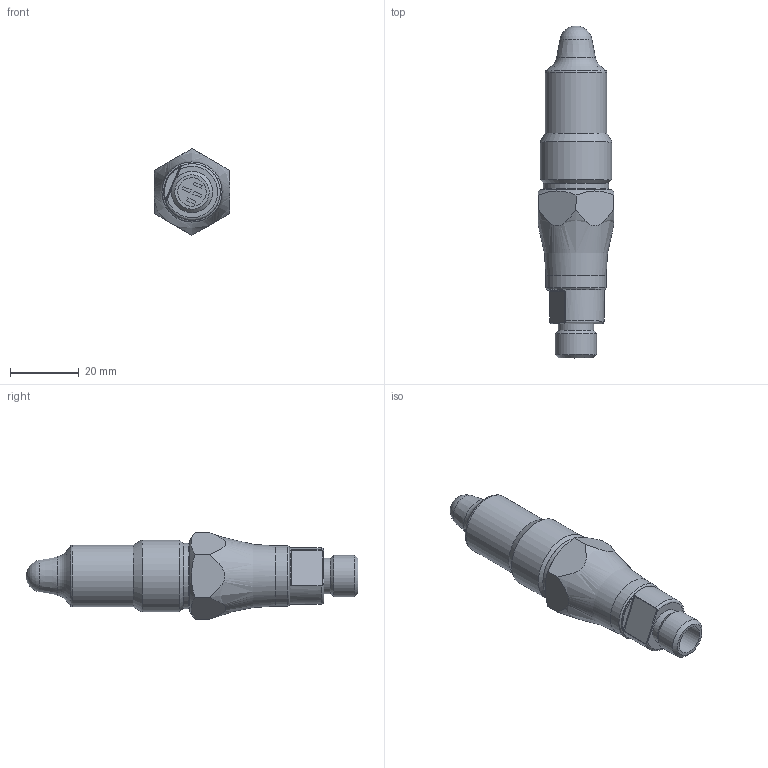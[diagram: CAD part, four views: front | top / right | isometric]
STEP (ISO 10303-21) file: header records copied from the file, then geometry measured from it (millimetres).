
FILE_DESCRIPTION( ( 'Unknown' ), '1' );
FILE_NAME( 'F:/U_Proces/Dokumentation/7000 3D Step filer/7000-/7000052/hygienisk_asm.stp', 'Unknown', ( 'Unknown' ), ( 'Unknown' ), 'PSStep 13.0', 'Unknown', ' ' );
FILE_SCHEMA( ( 'AUTOMOTIVE_DESIGN { 1 0 10303 214 1 1 1 1 }' ) );
Length unit declared in the file: millimetre
Products named in the file (1): 2103-122
Bounding box: 22 x 96.61 x 25.2 mm (x, y, z)
Surface area: 9762.5 mm2 (no closed solid volume)
Topology: 0 solids, 104 shells, 104 faces, 445 edges, 407 vertices
Faces by surface type: plane 55, cylinder 21, cone 15, torus 8, bspline 4, sphere 1
Full cylindrical faces by diameter (mm): 8.3 x1, 10.4 x1, 12 x1, 13 x1, 14.8 x1, 15 x1, 15.15 x1, 15.45 x2, 15.5 x1, 16.45 x1, 16.5 x1, 17.5 x1, 18 x1, 19 x1, 20.95 x1
Entity records: 5722 total; most frequent: CARTESIAN_POINT 1745, DIRECTION 648, ORIENTED_EDGE 382, EDGE_CURVE 382, VERTEX_POINT 382, AXIS2_PLACEMENT_3D 227, LINE 194, VECTOR 194
